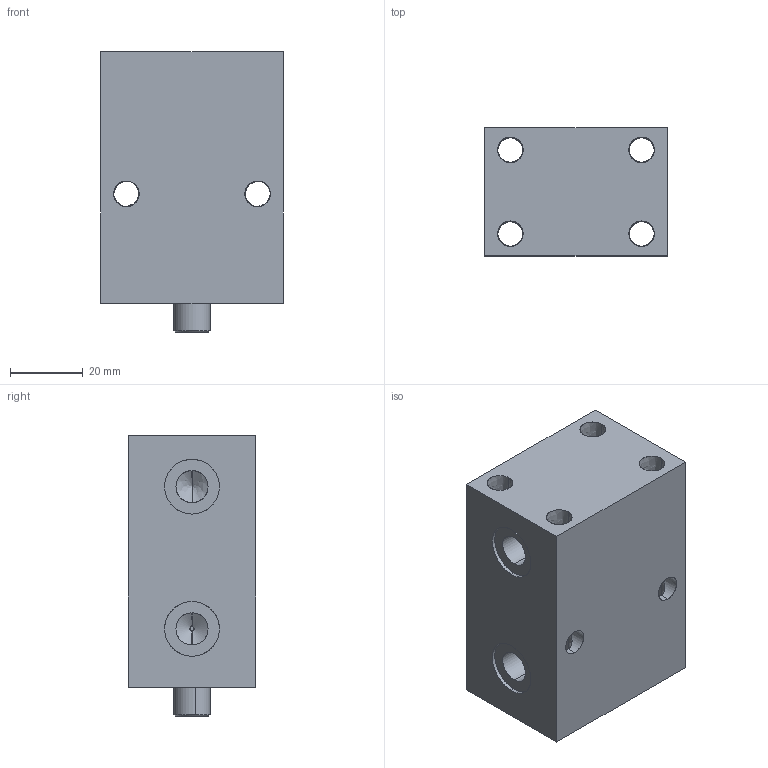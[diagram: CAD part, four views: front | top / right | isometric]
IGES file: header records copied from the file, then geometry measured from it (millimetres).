
Start section: SolidWorks IGES file using analytic representation for surfaces
Global section: file name: D:\karuppas\Clasp\3D model\Block cylinder B01C-Female thread\B01C-002F\Block cylinder B01C-0025F.IGS; native system: SolidWorks 2017; preprocessor: SolidWorks 2017; author: pc; date: 220709.235328; units: millimetre
Bounding box: 50 x 35 x 77 mm (x, y, z)
Surface area: 26322.7 mm2 (no closed solid volume)
Topology: 0 solids, 0 shells, 360 faces, 5600 edges, 5596 vertices
Faces by surface type: bspline 308, revolution 52
